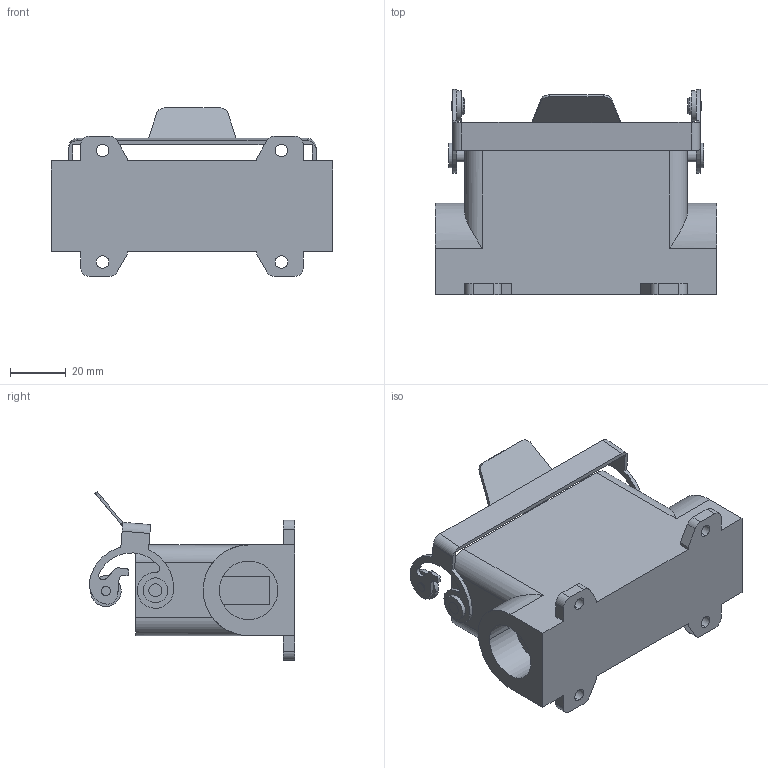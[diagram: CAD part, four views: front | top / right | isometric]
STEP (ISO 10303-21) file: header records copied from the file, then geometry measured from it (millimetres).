
FILE_DESCRIPTION (( 'STEP AP214' ), '1' );
FILE_NAME ('CZAP-25L.STEP', '2006-07-06T15:40:09', ( 'Mencom User' ), ( 'Mencom Corporation' ), 'SwSTEP 2.0', 'SolidWorks 2006104', '' );
FILE_SCHEMA (( 'AUTOMOTIVE_DESIGN' ));
Length unit declared in the file: inch
Products named in the file (1): CZAP-25L
Bounding box: 101 x 73.59 x 60.41 mm (x, y, z)
Surface area: 36502.6 mm2 (no closed solid volume)
Topology: 0 solids, 4 shells, 196 faces, 544 edges, 360 vertices
Faces by surface type: cylinder 103, plane 89, cone 4
Entity records: 9010 total; most frequent: CARTESIAN_POINT 1235, DIRECTION 1152, ORIENTED_EDGE 1041, EDGE_CURVE 544, AXIS2_PLACEMENT_3D 421, VERTEX_POINT 360, LINE 310, VECTOR 310
